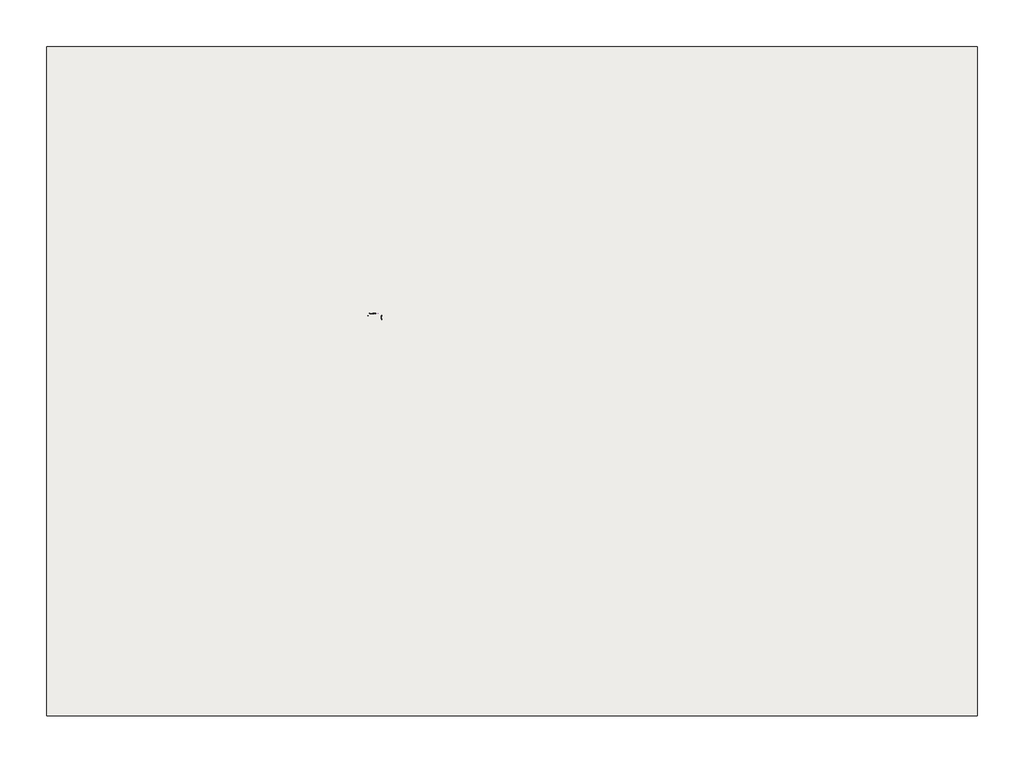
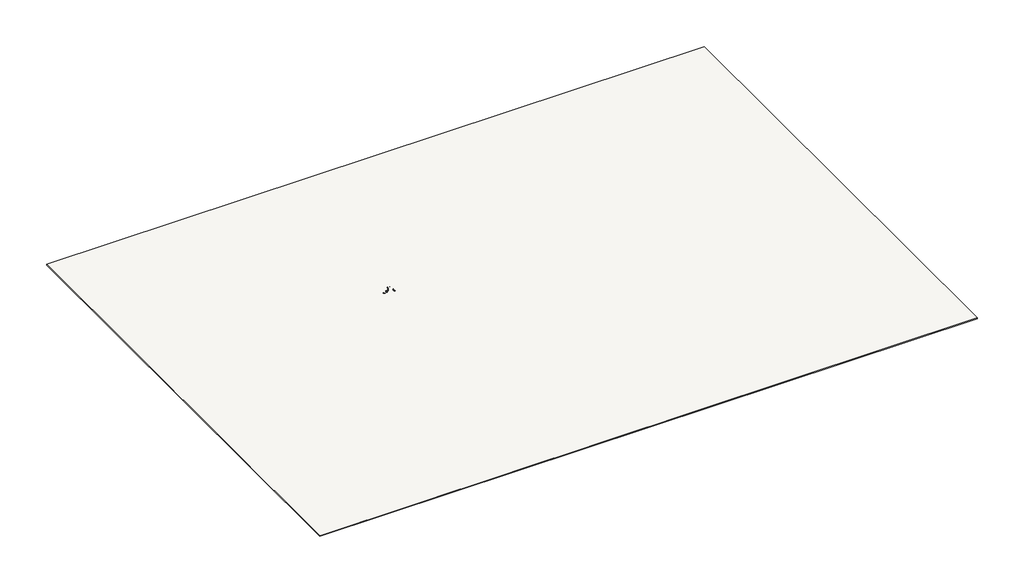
# One storey, incomplete: 6 proxies, 1 slab.
"""IFC4 building model written with IfcOpenShell, lengths in millimetres."""

from ifc_helpers import new_model, si_unit, frame, origin, place, context, project, spatial, polyline, outline, extrude, transform, mapped, element, save
from components import default_9fe8953b, default_29ba2d10, tsl_45_cs_satin_2506d694, tsl_721_cs_satin_24e3fac1, tsl_974_cs_satin_c553be42

model = new_model("IFC4")

# Units and contexts
model_context = context("Model", 3, world=origin())
ifc_project = project(units=[si_unit("LENGTHUNIT", "METRE", prefix="MILLI")], contexts=[model_context])

# Site, building, storey
site = spatial("IfcSite", under=ifc_project)
building = spatial("IfcBuilding", under=site)
storey = spatial("IfcBuildingStorey", under=building, Name="TSL LAYOUTS", Elevation=3657.6)

# Proxies
placement = place(None, origin())
default_shape = default_9fe8953b(model_context)
element("IfcBuildingElementProxy", 1, Name="TSL_UK - TSLGR45 - Radius ADA Grab Bars - Nest - Shared : Default", ObjectType="TSL_UK - TSLGR45 - Radius ADA Grab Bars - Nest - Shared : Default", at=placement, inside=storey, context=model_context, shape_type="MappedRepresentation", body=[
    mapped(default_shape, transform((-4172.4046077, 6731.6677095, 4320.21), x_axis=(1.0, 0.0, 0.0), y_axis=(0.0, 1.0, 0.0), z_axis=(0.0, 0.0, 1.0))),
])
element("IfcBuildingElementProxy", 2, Name="TSL_UK - TSLGR45 - Radius ADA Grab Bars - Nest - Shared : Default", ObjectType="TSL_UK - TSLGR45 - Radius ADA Grab Bars - Nest - Shared : Default", at=placement, inside=storey, context=model_context, shape_type="MappedRepresentation", body=[
    mapped(default_shape, transform((-3780.1046077, 6731.6677095, 4757.1), x_axis=(0.0, 0.0, 1.0), y_axis=(0.0, 1.0, 0.0), z_axis=(-1.0, 0.0, 0.0))),
])
default_2_shape = default_29ba2d10(model_context)
element("IfcBuildingElementProxy", 3, Name="TSL_UK - TSLGR45 - Radius ADA Grab Bars - Nest - Shared : Default", ObjectType="TSL_UK - TSLGR45 - Radius ADA Grab Bars - Nest - Shared : Default", at=placement, inside=storey, context=model_context, shape_type="MappedRepresentation", body=[
    mapped(default_2_shape, transform((-3013.1046077, 6231.6677095, 4657.6), x_axis=(0.0, -1.0, 0.0), y_axis=(1.0, 0.0, 0.0), z_axis=(0.0, 0.0, 1.0))),
])
tsl_45_cs_satin_shape = tsl_45_cs_satin_2506d694(model_context)
element("IfcBuildingElementProxy", 4, Name="TSL_UK - TSL45 - Single Toilet Roll Holder : TSL.45.CS - Satin", ObjectType="TSL_UK - TSL45 - Single Toilet Roll Holder : TSL.45.CS - Satin", at=placement, inside=storey, context=model_context, shape_type="MappedRepresentation", body=[
    mapped(tsl_45_cs_satin_shape, transform((-4022.2046077, 6731.6677095, 3657.6), x_axis=(1.0, 0.0, 0.0), y_axis=(0.0, 1.0, 0.0), z_axis=(0.0, 0.0, 1.0))),
])
tsl_721_cs_satin_shape = tsl_721_cs_satin_24e3fac1(model_context)
element("IfcBuildingElementProxy", 5, Name="TSL_UK - TSL721 - WC Flush Valve : TSL.721.CS - Satin", ObjectType="TSL_UK - TSL721 - WC Flush Valve : TSL.721.CS - Satin", at=placement, inside=storey, context=model_context, shape_type="MappedRepresentation", body=[
    mapped(tsl_721_cs_satin_shape, transform((-4614.7046077, 6431.6677095, 3657.6), x_axis=(0.0, 1.0, 0.0), y_axis=(-1.0, 0.0, 0.0), z_axis=(0.0, 0.0, 1.0))),
])
tsl_974_cs_satin_shape = tsl_974_cs_satin_c553be42(model_context)
element("IfcBuildingElementProxy", 6, Name="TSL_UK - TSL974 - Coat Hook : TSL.974.CS - Satin", ObjectType="TSL_UK - TSL974 - Coat Hook : TSL.974.CS - Satin", at=placement, inside=storey, context=model_context, shape_type="MappedRepresentation", body=[
    mapped(tsl_974_cs_satin_shape, transform((-3441.8946077, 6731.6677095, 3657.6), x_axis=(1.0, 0.0, 0.0), y_axis=(0.0, 1.0, 0.0), z_axis=(0.0, 0.0, 1.0))),
])

# Slab
element("IfcSlab", 7, ObjectType="3\" LW Concrete on 2\" Metal Deck", at=placement, inside=storey, context=model_context, shape_type="SweptSolid", body=[
    extrude(outline(polyline([(66399.7945952, 37809.4952069), (66399.7945952, -40219.3047931), (-42109.0054048, -40219.3047931), (-42109.0054048, 37809.4952069), (66399.7945952, 37809.4952069)])), frame((0.0, 0.0, 3530.6), z_axis=(0.0, 0.0, 1.0), x_axis=(1.0, 0.0, 0.0)), (0.0, 0.0, 1.0), 127.0),
])

save(model, "model.ifc")
